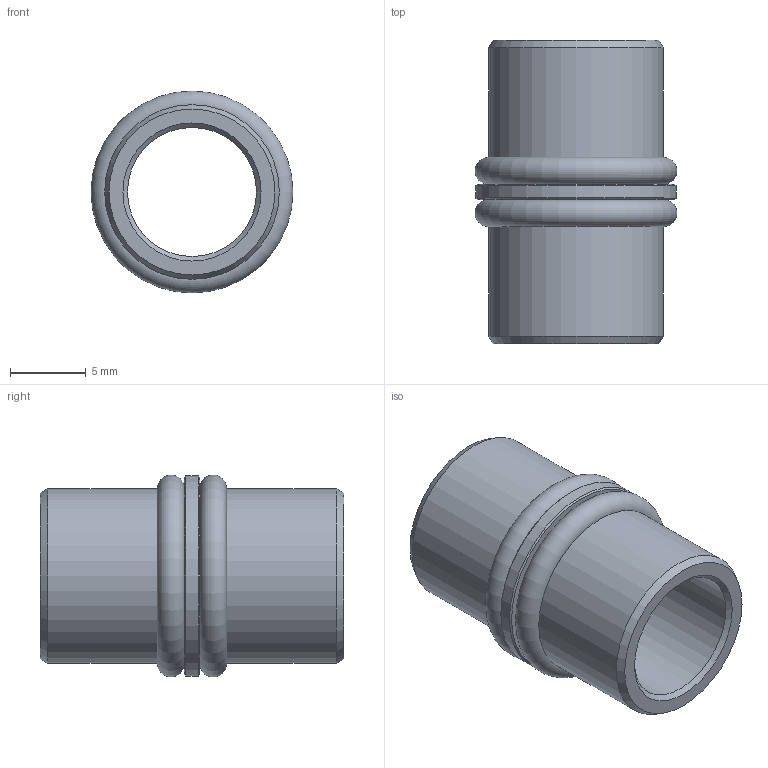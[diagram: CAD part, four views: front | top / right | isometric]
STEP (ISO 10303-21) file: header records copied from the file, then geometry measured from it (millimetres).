
FILE_DESCRIPTION((''),'2;1');
FILE_NAME('I:\Area Tecnica\Disegni\VARIE-3D\Componenti\400\STEP\T488_30.stp','2008-10-10T08:11:04',('pilonfr1'),(''),'Autodesk Inventor 2009','Autodesk Inventor 2009','');
FILE_SCHEMA(('AUTOMOTIVE_DESIGN { 1 0 10303 214 1 1 1 1 }'));
Length unit declared in the file: millimetre
Products named in the file (1): T488_30
Bounding box: 13.3 x 20 x 13.3 mm (x, y, z)
Volume: 1064.7 mm3; surface area: 1486 mm2
Topology: 1 solids, 1 shells, 16 faces, 28 edges, 16 vertices
Faces by surface type: cone 6, cylinder 4, plane 4, torus 2
Full cylindrical faces by diameter (mm): 8.5 x1, 11.5 x2, 13.2 x1
Entity records: 365 total; most frequent: DIRECTION 66, CARTESIAN_POINT 49, AXIS2_PLACEMENT_3D 33, ORIENTED_EDGE 32, EDGE_LOOP 32, VERTEX_POINT 16, CIRCLE 16, EDGE_CURVE 16
